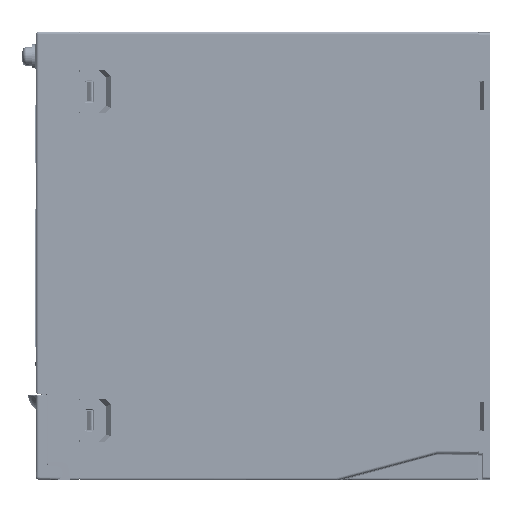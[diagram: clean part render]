
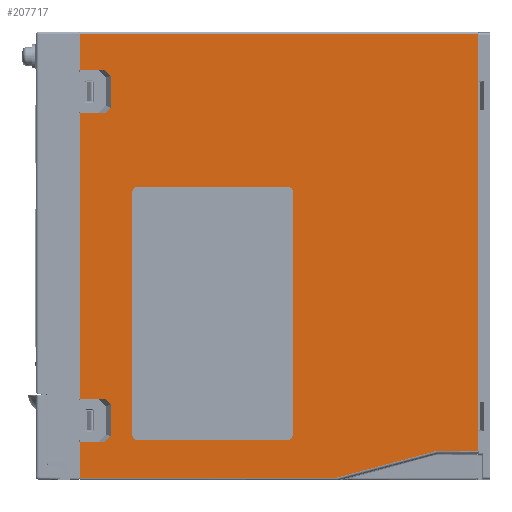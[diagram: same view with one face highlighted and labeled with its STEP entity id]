
A CAD part, left-side view. The second image highlights one B-rep face of the part: STEP entity #207717.
In plain terms, the highlighted planar face has unit normal (-1, 0, 0).
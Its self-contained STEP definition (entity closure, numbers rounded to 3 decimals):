
#177983=DIRECTION('',(0.,1.,0.));
#177984=VECTOR('',#177983,148.661);
#177985=CARTESIAN_POINT('',(-22.5,4.676,83.));
#177986=LINE('',#177985,#177984);
#177990=DIRECTION('',(0.,0.,1.));
#177991=VECTOR('',#177990,156.);
#177992=CARTESIAN_POINT('',(-22.5,4.676,-73.));
#177993=LINE('',#177992,#177991);
#177997=DIRECTION('',(0.,-1.,0.));
#177998=VECTOR('',#177997,15.192);
#177999=CARTESIAN_POINT('',(-22.5,19.868,-73.));
#178000=LINE('',#177999,#177998);
#178004=CARTESIAN_POINT('',(-22.5,19.868,-75.));
#178005=DIRECTION('',(1.,0.,0.));
#178006=DIRECTION('',(0.,0.259,0.966));
#178007=AXIS2_PLACEMENT_3D('',#178004,#178005,#178006);
#178012=DIRECTION('',(0.,-0.966,0.259));
#178013=VECTOR('',#178012,38.374);
#178014=CARTESIAN_POINT('',(-22.5,57.452,-83.));
#178015=LINE('',#178014,#178013);
#178019=DIRECTION('',(0.,-1.,0.));
#178020=VECTOR('',#178019,95.885);
#178021=CARTESIAN_POINT('',(-22.5,153.337,-83.));
#178022=LINE('',#178021,#178020);
#178026=DIRECTION('',(0.,0.,1.));
#178027=VECTOR('',#178026,13.47);
#178028=CARTESIAN_POINT('',(-22.5,153.337,-83.));
#178029=LINE('',#178028,#178027);
#178033=DIRECTION('',(0.,-1.,0.));
#178034=VECTOR('',#178033,9.307);
#178035=CARTESIAN_POINT('',(-22.5,153.337,-69.53));
#178036=LINE('',#178035,#178034);
#178040=DIRECTION('',(0.,0.,1.));
#178041=VECTOR('',#178040,12.);
#178042=CARTESIAN_POINT('',(-22.5,142.,-67.5));
#178043=LINE('',#178042,#178041);
#178047=DIRECTION('',(0.,-1.,0.));
#178048=VECTOR('',#178047,9.307);
#178049=CARTESIAN_POINT('',(-22.5,153.337,-53.47));
#178050=LINE('',#178049,#178048);
#178054=DIRECTION('',(0.,0.,1.));
#178055=VECTOR('',#178054,106.941);
#178056=CARTESIAN_POINT('',(-22.5,153.337,-53.47));
#178057=LINE('',#178056,#178055);
#178061=DIRECTION('',(0.,-1.,0.));
#178062=VECTOR('',#178061,9.307);
#178063=CARTESIAN_POINT('',(-22.5,153.337,53.47));
#178064=LINE('',#178063,#178062);
#178068=DIRECTION('',(0.,0.,1.));
#178069=VECTOR('',#178068,12.);
#178070=CARTESIAN_POINT('',(-22.5,142.,55.5));
#178071=LINE('',#178070,#178069);
#178075=DIRECTION('',(0.,-1.,0.));
#178076=VECTOR('',#178075,9.307);
#178077=CARTESIAN_POINT('',(-22.5,153.337,69.53));
#178078=LINE('',#178077,#178076);
#178082=DIRECTION('',(0.,0.,1.));
#178083=VECTOR('',#178082,13.47);
#178084=CARTESIAN_POINT('',(-22.5,153.337,69.53));
#178085=LINE('',#178084,#178083);
#178089=DIRECTION('',(0.,1.,0.));
#178090=VECTOR('',#178089,56.);
#178091=CARTESIAN_POINT('',(-22.5,75.85,26.));
#178092=LINE('',#178091,#178090);
#178096=DIRECTION('',(0.,0.,-1.));
#178097=VECTOR('',#178096,91.);
#178098=CARTESIAN_POINT('',(-22.5,133.85,24.));
#178099=LINE('',#178098,#178097);
#178103=DIRECTION('',(0.,-1.,0.));
#178104=VECTOR('',#178103,56.);
#178105=CARTESIAN_POINT('',(-22.5,131.85,-69.));
#178106=LINE('',#178105,#178104);
#178110=DIRECTION('',(0.,0.,1.));
#178111=VECTOR('',#178110,91.);
#178112=CARTESIAN_POINT('',(-22.5,73.85,-67.));
#178113=LINE('',#178112,#178111);
#183951=DIRECTION('',(0.,-0.707,-0.707));
#183952=VECTOR('',#183951,2.87);
#183953=CARTESIAN_POINT('',(-22.5,144.03,69.53));
#183954=LINE('',#183953,#183952);
#183972=DIRECTION('',(0.,0.707,-0.707));
#183973=VECTOR('',#183972,2.87);
#183974=CARTESIAN_POINT('',(-22.5,142.,55.5));
#183975=LINE('',#183974,#183973);
#184007=DIRECTION('',(0.,0.707,-0.707));
#184008=VECTOR('',#184007,2.87);
#184009=CARTESIAN_POINT('',(-22.5,142.,-67.5));
#184010=LINE('',#184009,#184008);
#184028=DIRECTION('',(0.,-0.707,-0.707));
#184029=VECTOR('',#184028,2.87);
#184030=CARTESIAN_POINT('',(-22.5,144.03,-53.47));
#184031=LINE('',#184030,#184029);
#204138=CARTESIAN_POINT('',(-22.5,131.85,24.));
#204139=DIRECTION('',(1.,0.,0.));
#204140=DIRECTION('',(0.,1.,0.));
#204141=AXIS2_PLACEMENT_3D('',#204138,#204139,#204140);
#204206=CARTESIAN_POINT('',(-22.5,131.85,-67.));
#204207=DIRECTION('',(1.,0.,0.));
#204208=DIRECTION('',(0.,0.,-1.));
#204209=AXIS2_PLACEMENT_3D('',#204206,#204207,#204208);
#204228=CARTESIAN_POINT('',(-22.5,75.85,-67.));
#204229=DIRECTION('',(1.,0.,0.));
#204230=DIRECTION('',(0.,-1.,0.));
#204231=AXIS2_PLACEMENT_3D('',#204228,#204229,#204230);
#204250=CARTESIAN_POINT('',(-22.5,75.85,24.));
#204251=DIRECTION('',(1.,0.,0.));
#204252=DIRECTION('',(0.,0.,1.));
#204253=AXIS2_PLACEMENT_3D('',#204250,#204251,#204252);
#204272=CARTESIAN_POINT('',(-22.5,142.,-67.5));
#204274=VERTEX_POINT('',#204272);
#204276=CARTESIAN_POINT('',(-22.5,142.,-55.5));
#204278=VERTEX_POINT('',#204276);
#204280=CARTESIAN_POINT('',(-22.5,142.,55.5));
#204282=VERTEX_POINT('',#204280);
#204284=CARTESIAN_POINT('',(-22.5,142.,67.5));
#204286=VERTEX_POINT('',#204284);
#206520=CARTESIAN_POINT('',(-22.5,144.03,-69.53));
#206521=VERTEX_POINT('',#206520);
#206524=CARTESIAN_POINT('',(-22.5,144.03,-53.47));
#206525=VERTEX_POINT('',#206524);
#206528=CARTESIAN_POINT('',(-22.5,144.03,53.47));
#206529=VERTEX_POINT('',#206528);
#206532=CARTESIAN_POINT('',(-22.5,144.03,69.53));
#206533=VERTEX_POINT('',#206532);
#206634=CARTESIAN_POINT('',(-22.5,4.676,83.));
#206635=CARTESIAN_POINT('',(-22.5,153.337,83.));
#206636=VERTEX_POINT('',#206634);
#206637=VERTEX_POINT('',#206635);
#206642=CARTESIAN_POINT('',(-22.5,19.868,-73.));
#206643=CARTESIAN_POINT('',(-22.5,4.676,-73.));
#206644=VERTEX_POINT('',#206642);
#206645=VERTEX_POINT('',#206643);
#206650=CARTESIAN_POINT('',(-22.5,57.452,-83.));
#206651=CARTESIAN_POINT('',(-22.5,20.386,-73.068));
#206652=VERTEX_POINT('',#206650);
#206653=VERTEX_POINT('',#206651);
#206654=CARTESIAN_POINT('',(-22.5,153.337,-83.));
#206655=VERTEX_POINT('',#206654);
#207216=CARTESIAN_POINT('',(-22.5,153.337,53.47));
#207217=VERTEX_POINT('',#207216);
#207218=CARTESIAN_POINT('',(-22.5,153.337,69.53));
#207219=VERTEX_POINT('',#207218);
#207220=CARTESIAN_POINT('',(-22.5,153.337,-69.53));
#207221=VERTEX_POINT('',#207220);
#207222=CARTESIAN_POINT('',(-22.5,153.337,-53.47));
#207223=VERTEX_POINT('',#207222);
#207482=CARTESIAN_POINT('',(-22.5,131.85,-69.));
#207483=VERTEX_POINT('',#207482);
#207484=CARTESIAN_POINT('',(-22.5,133.85,-67.));
#207485=VERTEX_POINT('',#207484);
#207490=CARTESIAN_POINT('',(-22.5,133.85,24.));
#207491=VERTEX_POINT('',#207490);
#207492=CARTESIAN_POINT('',(-22.5,131.85,26.));
#207493=VERTEX_POINT('',#207492);
#207498=CARTESIAN_POINT('',(-22.5,75.85,26.));
#207499=VERTEX_POINT('',#207498);
#207500=CARTESIAN_POINT('',(-22.5,73.85,24.));
#207501=VERTEX_POINT('',#207500);
#207506=CARTESIAN_POINT('',(-22.5,73.85,-67.));
#207507=VERTEX_POINT('',#207506);
#207508=CARTESIAN_POINT('',(-22.5,75.85,-69.));
#207509=VERTEX_POINT('',#207508);
#207654=CARTESIAN_POINT('',(-22.5,0.,0.));
#207655=DIRECTION('',(-1.,0.,0.));
#207656=DIRECTION('',(0.,0.,1.));
#207657=AXIS2_PLACEMENT_3D('',#207654,#207655,#207656);
#207658=PLANE('',#207657);
#207660=ORIENTED_EDGE('',*,*,#207659,.F.);
#207662=ORIENTED_EDGE('',*,*,#207661,.F.);
#207664=ORIENTED_EDGE('',*,*,#207663,.F.);
#207666=ORIENTED_EDGE('',*,*,#207665,.F.);
#207668=ORIENTED_EDGE('',*,*,#207667,.F.);
#207670=ORIENTED_EDGE('',*,*,#207669,.F.);
#207672=ORIENTED_EDGE('',*,*,#207671,.T.);
#207674=ORIENTED_EDGE('',*,*,#207673,.T.);
#207676=ORIENTED_EDGE('',*,*,#207675,.F.);
#207678=ORIENTED_EDGE('',*,*,#207677,.T.);
#207680=ORIENTED_EDGE('',*,*,#207679,.F.);
#207682=ORIENTED_EDGE('',*,*,#207681,.F.);
#207684=ORIENTED_EDGE('',*,*,#207683,.T.);
#207686=ORIENTED_EDGE('',*,*,#207685,.T.);
#207688=ORIENTED_EDGE('',*,*,#207687,.F.);
#207690=ORIENTED_EDGE('',*,*,#207689,.T.);
#207692=ORIENTED_EDGE('',*,*,#207691,.F.);
#207694=ORIENTED_EDGE('',*,*,#207693,.F.);
#207696=ORIENTED_EDGE('',*,*,#207695,.T.);
#207697=EDGE_LOOP('',(#207660,#207662,#207664,#207666,#207668,#207670,#207672,
#207674,#207676,#207678,#207680,#207682,#207684,#207686,#207688,#207690,#207692,
#207694,#207696));
#207698=FACE_OUTER_BOUND('',#207697,.F.);
#207700=ORIENTED_EDGE('',*,*,#207699,.T.);
#207702=ORIENTED_EDGE('',*,*,#207701,.F.);
#207704=ORIENTED_EDGE('',*,*,#207703,.T.);
#207706=ORIENTED_EDGE('',*,*,#207705,.F.);
#207708=ORIENTED_EDGE('',*,*,#207707,.T.);
#207710=ORIENTED_EDGE('',*,*,#207709,.F.);
#207712=ORIENTED_EDGE('',*,*,#207711,.T.);
#207714=ORIENTED_EDGE('',*,*,#207713,.F.);
#207715=EDGE_LOOP('',(#207700,#207702,#207704,#207706,#207708,#207710,#207712,
#207714));
#207716=FACE_BOUND('',#207715,.F.);
#178008=CIRCLE('',#178007,2.);
#204142=CIRCLE('',#204141,2.);
#204210=CIRCLE('',#204209,2.);
#204232=CIRCLE('',#204231,2.);
#204254=CIRCLE('',#204253,2.);
#207659=EDGE_CURVE('',#206636,#206637,#177986,.T.);
#207661=EDGE_CURVE('',#206645,#206636,#177993,.T.);
#207663=EDGE_CURVE('',#206644,#206645,#178000,.T.);
#207665=EDGE_CURVE('',#206653,#206644,#178008,.T.);
#207667=EDGE_CURVE('',#206652,#206653,#178015,.T.);
#207669=EDGE_CURVE('',#206655,#206652,#178022,.T.);
#207671=EDGE_CURVE('',#206655,#207221,#178029,.T.);
#207673=EDGE_CURVE('',#207221,#206521,#178036,.T.);
#207675=EDGE_CURVE('',#204274,#206521,#184010,.T.);
#207677=EDGE_CURVE('',#204274,#204278,#178043,.T.);
#207679=EDGE_CURVE('',#206525,#204278,#184031,.T.);
#207681=EDGE_CURVE('',#207223,#206525,#178050,.T.);
#207683=EDGE_CURVE('',#207223,#207217,#178057,.T.);
#207685=EDGE_CURVE('',#207217,#206529,#178064,.T.);
#207687=EDGE_CURVE('',#204282,#206529,#183975,.T.);
#207689=EDGE_CURVE('',#204282,#204286,#178071,.T.);
#207691=EDGE_CURVE('',#206533,#204286,#183954,.T.);
#207693=EDGE_CURVE('',#207219,#206533,#178078,.T.);
#207695=EDGE_CURVE('',#207219,#206637,#178085,.T.);
#207699=EDGE_CURVE('',#207499,#207493,#178092,.T.);
#207701=EDGE_CURVE('',#207491,#207493,#204142,.T.);
#207703=EDGE_CURVE('',#207491,#207485,#178099,.T.);
#207705=EDGE_CURVE('',#207483,#207485,#204210,.T.);
#207707=EDGE_CURVE('',#207483,#207509,#178106,.T.);
#207709=EDGE_CURVE('',#207507,#207509,#204232,.T.);
#207711=EDGE_CURVE('',#207507,#207501,#178113,.T.);
#207713=EDGE_CURVE('',#207499,#207501,#204254,.T.);
#207717=ADVANCED_FACE('',(#207698,#207716),#207658,.T.);
